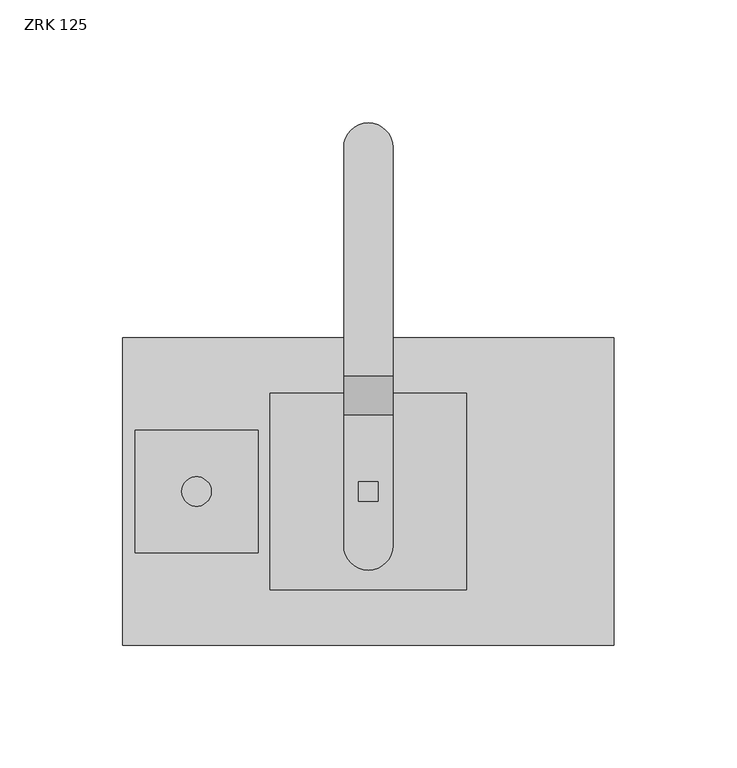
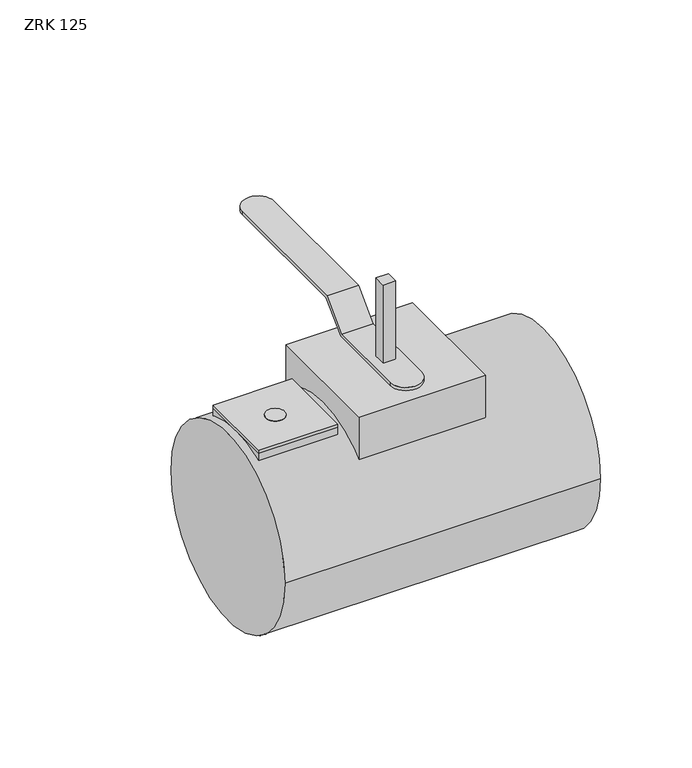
"""IFC4 building model written with IfcOpenShell, lengths in millimetres: damper geometry, KORF_Заслонка_Круглая_ZRK_Ручка : ZRK 125."""

import ifcopenshell
import ifcopenshell.guid

model = None  # the IFC model being written
_history = None  # IfcOwnerHistory: only IFC2X3 demands one
_inside = {}  # id of a spatial element -> (the spatial element, [elements in it])
_under = {}  # id of a project, library or spatial element -> (it, [spatial elements below it])
_declared = {}  # id of a project -> (the project, [libraries it declares])
_typed = {}  # id of a type object -> (the type object, [elements of that type])
_made_of = {}  # id of a material, layer set ... -> (it, [elements and type objects made of it])


def new_model(schema):
    """Start an empty IFC model of exactly this schema.

    Asked for "IFC4X3", IfcOpenShell would pick the latest addendum, in which some entities
    have other attributes; the version numbers below select the first issue.
    IFC2X3 requires an IfcOwnerHistory on every rooted entity: one is made here for all.
    """
    global model, _history
    if schema == "IFC4X3":
        model = ifcopenshell.file(schema_version=(4, 3, 0, 0))
    else:
        model = ifcopenshell.file(schema=schema)
    _inside.clear()
    _under.clear()
    _declared.clear()
    _typed.clear()
    _made_of.clear()
    _history = None
    if model.schema == "IFC2X3":
        org = make("IfcOrganization", Name="unknown")
        user = make(
            "IfcPersonAndOrganization",
            ThePerson=make("IfcPerson", FamilyName="unknown"),
            TheOrganization=org,
        )
        app = make(
            "IfcApplication",
            ApplicationDeveloper=org,
            Version="unknown",
            ApplicationFullName="unknown",
            ApplicationIdentifier="unknown",
        )
        _history = make(
            "IfcOwnerHistory",
            OwningUser=user,
            OwningApplication=app,
            ChangeAction="ADDED",
            CreationDate=0,
        )
    return model


def make(cls, **values):
    """One entity of the class cls with the attributes given. An attribute that is None is left unset."""
    return model.create_entity(
        cls, **{name: value for name, value in values.items() if value is not None}
    )


def rooted(cls, **values):
    """An entity with a GlobalId (a new one), such as an element, a storey or a relation."""
    return make(cls, GlobalId=ifcopenshell.guid.new(), OwnerHistory=_history, **values)


def si_unit(unit_type, name, prefix=None):
    """IfcSIUnit, for example si_unit("LENGTHUNIT", "METRE", prefix="MILLI")."""
    return make("IfcSIUnit", UnitType=unit_type, Prefix=prefix, Name=name)


def assignment(units):
    """IfcUnitAssignment: the units of a project."""
    return None if units is None else make("IfcUnitAssignment", Units=units)


def point(xyz):
    """IfcCartesianPoint."""
    return None if xyz is None else make("IfcCartesianPoint", Coordinates=xyz)


def direction(xyz):
    """IfcDirection."""
    return None if xyz is None else make("IfcDirection", DirectionRatios=xyz)


def frame(location, z_axis=None, x_axis=None):
    """IfcAxis2Placement3D, a coordinate frame: its origin and axes. An axis left out is left unset."""
    return make(
        "IfcAxis2Placement3D",
        Location=point(location),
        Axis=direction(z_axis),
        RefDirection=direction(x_axis),
    )


def frame_2d(location, x_axis=None):
    """IfcAxis2Placement2D, a coordinate frame in the plane: its origin and x axis."""
    return make(
        "IfcAxis2Placement2D", Location=point(location), RefDirection=direction(x_axis)
    )


def origin():
    """The frame at (0, 0, 0) with its axes left unset."""
    return frame((0.0, 0.0, 0.0))


def origin_2d():
    """The frame at (0, 0) in the plane with its x axis left unset."""
    return frame_2d((0.0, 0.0))


def place(relative_to, where):
    """IfcLocalPlacement: puts the frame where relative to a parent placement (None: the world)."""
    return make(
        "IfcLocalPlacement", PlacementRelTo=relative_to, RelativePlacement=where
    )


def context(
    kind, dimensions, precision=None, world=None, true_north=None, identifier=None
):
    """IfcGeometricRepresentationContext, for example the 3D "Model" context."""
    return make(
        "IfcGeometricRepresentationContext",
        ContextIdentifier=identifier,
        ContextType=kind,
        CoordinateSpaceDimension=dimensions,
        Precision=precision,
        WorldCoordinateSystem=world,
        TrueNorth=true_north,
    )


def project(units=None, contexts=None):
    """IfcProject with its units and contexts."""
    return rooted(
        "IfcProject",
        Name="project",
        RepresentationContexts=contexts,
        UnitsInContext=assignment(units),
    )


def spatial(cls, under=None, at=None, **own):
    """A site, building, storey or space (cls), placed at a placement, below another one or the project."""
    s = rooted(cls, ObjectPlacement=at, **own)
    if under is not None:
        _under.setdefault(under.id(), (under, []))[1].append(s)
    return s


def polyline(points):
    """IfcPolyline through the points."""
    return make("IfcPolyline", Points=[point(p) for p in points])


def circle_curve(where, radius):
    """IfcCircle in the frame where."""
    return make("IfcCircle", Position=where, Radius=radius)


def trimmed(basis, trim1, trim2, sense, master):
    """IfcTrimmedCurve: the piece of a basis curve between two trims."""
    return make(
        "IfcTrimmedCurve",
        BasisCurve=basis,
        Trim1=trim1,
        Trim2=trim2,
        SenseAgreement=sense,
        MasterRepresentation=master,
    )


def segment(curve, same_sense, transition):
    """IfcCompositeCurveSegment."""
    return make(
        "IfcCompositeCurveSegment",
        Transition=transition,
        SameSense=same_sense,
        ParentCurve=curve,
    )


def composite_curve(segments, self_intersect=None):
    """IfcCompositeCurve: segments joined end to end."""
    return make("IfcCompositeCurve", Segments=segments, SelfIntersect=self_intersect)


def outline(outer, holes=None, kind="AREA"):
    """IfcArbitraryClosedProfileDef: a profile drawn as a closed curve; with holes, ...WithVoids."""
    if holes is None:
        return make("IfcArbitraryClosedProfileDef", ProfileType=kind, OuterCurve=outer)
    return make(
        "IfcArbitraryProfileDefWithVoids",
        ProfileType=kind,
        OuterCurve=outer,
        InnerCurves=holes,
    )


def extrude(swept, where, along, depth):
    """IfcExtrudedAreaSolid: the profile swept, set in the frame where, extruded along a direction by depth."""
    return make(
        "IfcExtrudedAreaSolid",
        SweptArea=swept,
        Position=where,
        ExtrudedDirection=direction(along),
        Depth=depth,
    )


def shape(context_of_items, identifier, shape_type, items):
    """IfcShapeRepresentation: the items that make up one representation, for example the "Body"."""
    return make(
        "IfcShapeRepresentation",
        ContextOfItems=context_of_items,
        RepresentationIdentifier=identifier,
        RepresentationType=shape_type,
        Items=items,
    )


def source(mapping_origin, context_of_items, identifier, shape_type, items):
    """IfcRepresentationMap: a shape defined once, which mapped items show again and again."""
    return make(
        "IfcRepresentationMap",
        MappingOrigin=mapping_origin,
        MappedRepresentation=shape(context_of_items, identifier, shape_type, items),
    )


def transform(
    local_origin,
    x_axis=None,
    y_axis=None,
    z_axis=None,
    scale=None,
    scale2=None,
    scale3=None,
    uniform=True,
):
    """IfcCartesianTransformationOperator3D, or its non-uniform kind. x_axis, y_axis, z_axis: its Axis1, 2, 3."""
    if uniform:
        return make(
            "IfcCartesianTransformationOperator3D",
            Axis1=direction(x_axis),
            Axis2=direction(y_axis),
            LocalOrigin=point(local_origin),
            Scale=scale,
            Axis3=direction(z_axis),
        )
    return make(
        "IfcCartesianTransformationOperator3DnonUniform",
        Axis1=direction(x_axis),
        Axis2=direction(y_axis),
        LocalOrigin=point(local_origin),
        Scale=scale,
        Axis3=direction(z_axis),
        Scale2=scale2,
        Scale3=scale3,
    )


def mapped(mapping_source, mapping_target):
    """IfcMappedItem: shows the shape of a source again, moved by a transform."""
    return make(
        "IfcMappedItem", MappingSource=mapping_source, MappingTarget=mapping_target
    )


def made_of(thing, what):
    """Note that an element or type object is made of a material, layer set ...; save() writes the relation."""
    if what is not None:
        _made_of.setdefault(what.id(), (what, []))[1].append(thing)
    return thing


def element(
    cls,
    number,
    at=None,
    inside=None,
    cuts=None,
    type_object=None,
    material=None,
    context=None,
    identifier="Body",
    shape_type=None,
    held_by="IfcProductDefinitionShape",
    body=None,
    shapes=None,
    **own,
):
    """One element of the class cls, such as IfcWall. Its Tag is "e" and its number.

    at: its placement. inside: the storey or other place that contains it. cuts: it is an
    opening in that element (IfcRelVoidsElement). A single representation is given by context,
    identifier, shape_type and body (its items); several are given by shapes. held_by: the class
    of the entity that holds the representations. save() writes the other relations.
    """
    e = rooted(cls, Tag="e%d" % number, ObjectPlacement=at, **own)
    if body is not None:
        shapes = [shape(context, identifier, shape_type, body)]
    if shapes is not None:
        e.Representation = make(held_by, Representations=shapes)
    if inside is not None:
        _inside.setdefault(inside.id(), (inside, []))[1].append(e)
    if cuts is not None:
        rooted(
            "IfcRelVoidsElement", RelatingBuildingElement=cuts, RelatedOpeningElement=e
        )
    if type_object is not None:
        _typed.setdefault(type_object.id(), (type_object, []))[1].append(e)
    return made_of(e, material)


def aggregate(whole, parts):
    """IfcRelAggregates: a whole, such as a stair, and the parts it consists of."""
    return rooted("IfcRelAggregates", RelatingObject=whole, RelatedObjects=parts)


def save(model, path):
    """Write the relations noted so far, then the file.

    IfcRelAggregates (storeys below a building ...), IfcRelContainedInSpatialStructure (elements
    in a storey), IfcRelDefinesByType, IfcRelAssociatesMaterial and IfcRelDeclares: one each for
    every whole, place, type object, material and project.
    """
    for whole, parts in _under.values():
        aggregate(whole, parts)
    for where, things in _inside.values():
        rooted(
            "IfcRelContainedInSpatialStructure",
            RelatedElements=things,
            RelatingStructure=where,
        )
    for kind, things in _typed.values():
        rooted("IfcRelDefinesByType", RelatedObjects=things, RelatingType=kind)
    for what, things in _made_of.values():
        rooted("IfcRelAssociatesMaterial", RelatedObjects=things, RelatingMaterial=what)
    for by, libraries in _declared.values():
        rooted("IfcRelDeclares", RelatingContext=by, RelatedDefinitions=libraries)
    model.write(path)


def plane_surface(at):
    """IfcPlane: the flat surface through the origin of the frame at, square to its z axis."""
    return make("IfcPlane", Position=at)


def cylinder_surface(at, radius):
    """IfcCylindricalSurface: all points at the distance radius from the z axis of the frame at."""
    return make("IfcCylindricalSurface", Position=at, Radius=radius)


def revolved_surface(curve, axis_point, axis_direction):
    """IfcSurfaceOfRevolution: the curve turned about the line through axis_point along axis_direction."""
    return make(
        "IfcSurfaceOfRevolution",
        SweptCurve=make("IfcArbitraryOpenProfileDef", ProfileType="CURVE", Curve=curve),
        AxisPosition=make("IfcAxis1Placement", Location=point(axis_point), Axis=direction(axis_direction)),
    )


def advanced_brep(points, edges, surfaces, faces):
    """IfcAdvancedBrep: a solid bounded by faces that lie on surfaces and meet in shared edges.

    An edge is (start, end): straight between two places in points (the first is 0);
    or (start, end, curve); or (start, end, curve, False) where it runs against its curve.
    A face is (place in surfaces, loops), or (place, loops, False) where it looks against
    its surface's normal. A loop lists edges by number (the first is 1), with a minus sign
    where the edge is run from its end to its start. The first loop is the outer one.
    """
    corners = [point(p) for p in points]
    vertices = [make("IfcVertexPoint", VertexGeometry=c) for c in corners]
    made = []
    for start, end, *more in edges:
        made.append(
            make(
                "IfcEdgeCurve",
                EdgeStart=vertices[start],
                EdgeEnd=vertices[end],
                EdgeGeometry=more[0] if more else make("IfcPolyline", Points=[corners[start], corners[end]]),
                SameSense=more[1] if len(more) > 1 else True,
            )
        )
    hull = []
    for where, loops, *sense in faces:
        bounds = []
        for j, loop in enumerate(loops):
            ring = [make("IfcOrientedEdge", EdgeElement=made[abs(k) - 1], Orientation=k > 0) for k in loop]
            bounds.append(
                make(
                    "IfcFaceOuterBound" if j == 0 else "IfcFaceBound",
                    Bound=make("IfcEdgeLoop", EdgeList=ring),
                    Orientation=True,
                )
            )
        hull.append(make("IfcAdvancedFace", Bounds=bounds, FaceSurface=surfaces[where], SameSense=sense[0] if sense else True))
    return make("IfcAdvancedBrep", Outer=make("IfcClosedShell", CfsFaces=hull))


def zrk_125_a92ab89a(model_context):
    return source(origin(), model_context, "Body", "SolidModel", [
        extrude(outline(composite_curve([segment(trimmed(circle_curve(frame_2d((30.0, 0.0)), 6.0), [point((36.0, 0.0))], [point((24.0, 0.0))], False, "CARTESIAN"), True, "CONTINUOUS"), segment(trimmed(circle_curve(frame_2d((30.0, 0.0)), 6.0), [point((24.0, 0.0))], [point((36.0, 0.0))], False, "CARTESIAN"), True, "CONTINUOUS")], self_intersect=False)), frame((0.0, 0.0, 62.5), z_axis=(0.0, 0.0, 1.0), x_axis=(1.0, 0.0, 0.0)), (0.0, 0.0, 1.0), 2.0),
        extrude(outline(polyline([(55.0, 25.0), (55.0, -25.0), (5.0, -25.0), (5.0, 25.0), (55.0, 25.0)]), holes=[composite_curve([segment(trimmed(circle_curve(frame_2d((30.0, 0.0)), 6.0), [point((24.0, 0.0))], [point((36.0, 0.0))], True, "CARTESIAN"), True, "CONTINUOUS"), segment(trimmed(circle_curve(frame_2d((30.0, 0.0)), 6.0), [point((36.0, 0.0))], [point((24.0, 0.0))], True, "CARTESIAN"), True, "CONTINUOUS")], self_intersect=False)]), frame((0.0, 0.0, 62.5), z_axis=(0.0, 0.0, 1.0), x_axis=(1.0, 0.0, 0.0)), (0.0, 0.0, 1.0), 2.0),
        extrude(outline(composite_curve([segment(trimmed(circle_curve(origin_2d(), 62.5), [point((-62.5, 0.0))], [point((62.5, 0.0))], False, "CARTESIAN"), True, "CONTINUOUS"), segment(trimmed(circle_curve(origin_2d(), 62.5), [point((62.5, 0.0))], [point((-62.5, 0.0))], False, "CARTESIAN"), True, "CONTINUOUS")], self_intersect=False)), frame((0.0, 0.0, 0.0), z_axis=(1.0, 0.0, 0.0), x_axis=(0.0, 1.0, 0.0)), (0.0, 0.0, 1.0), 200.0),
        advanced_brep(
        [(55.0, 25.0, 62.5), (5.0, 25.0, 62.5), (5.0, 0.0, 62.5), (5.0, -25.0, 62.5), (55.0, -25.0, 62.5), (55.0, 0.0, 62.5), (55.0, 25.0, 57.2821962), (5.0, 25.0, 57.2821962), (5.0, -25.0, 57.2821962), (55.0, -25.0, 57.2821962)],
        [
            (0, 1),
            (1, 2),
            (2, 3),
            (3, 4),
            (4, 5),
            (5, 0),
            (0, 6),
            (6, 7),
            (7, 1),
            (7, 2, circle_curve(frame((5.0, 0.0, 0.0), z_axis=(1.0, 0.0, 0.0), x_axis=(0.0, 0.0, -1.0)), 62.5)),
            (2, 8, circle_curve(frame((5.0, 0.0, 0.0), z_axis=(1.0, 0.0, 0.0), x_axis=(0.0, 0.0, -1.0)), 62.5)),
            (8, 3),
            (8, 9),
            (9, 4),
            (9, 5, circle_curve(frame((55.0, 0.0, 0.0), z_axis=(-1.0, 0.0, 0.0), x_axis=(0.0, 0.0, -1.0)), 62.5)),
            (5, 6, circle_curve(frame((55.0, 0.0, 0.0), z_axis=(-1.0, 0.0, 0.0), x_axis=(0.0, 0.0, -1.0)), 62.5)),
        ],
        [
            plane_surface(frame((5.0, 25.0, 62.5), z_axis=(0.0, 0.0, 1.0), x_axis=(-1.0, 0.0, 0.0))),
            plane_surface(frame((55.0, 25.0, 62.5), z_axis=(0.0, 1.0, 0.0), x_axis=(0.0, 0.0, -1.0))),
            plane_surface(frame((5.0, 25.0, 62.5), z_axis=(-1.0, 0.0, 0.0), x_axis=(0.0, 0.0, -1.0))),
            plane_surface(frame((5.0, -25.0, 62.5), z_axis=(0.0, -1.0, 0.0), x_axis=(0.0, 0.0, -1.0))),
            plane_surface(frame((55.0, -25.0, 62.5), z_axis=(1.0, 0.0, 0.0), x_axis=(0.0, 0.0, -1.0))),
            revolved_surface(polyline([(5.0, 0.0, -62.5), (55.0, 0.0, -62.5)]), (200.0, 0.0, 0.0), (-1.0, 0.0, 0.0)),
        ],
        [
            (0, [[1, 2, 3, 4, 5, 6]]),
            (1, [[-1, 7, 8, 9]]),
            (2, [[-2, -9, 10]]),
            (2, [[-3, 11, 12]]),
            (3, [[-4, -12, 13, 14]]),
            (4, [[-5, -14, 15]]),
            (4, [[-6, 16, -7]]),
            (5, [[-8, -16, -15, -13, -11, -10]]),
        ],
    ),
        extrude(outline(composite_curve([segment(polyline([(-4.0, 130.5), (4.0, 130.5), (4.0, 62.3718687)]), True, "CONTINUOUS"), segment(trimmed(circle_curve(origin_2d(), 62.5), [point((4.0, 62.3718687))], [point((-4.0, 62.3718687))], True, "CARTESIAN"), True, "CONTINUOUS"), segment(polyline([(-4.0, 62.3718687), (-4.0, 130.5)]), True, "CONTINUOUS")], self_intersect=False)), frame((96.0, 0.0, 0.0), z_axis=(1.0, 0.0, 0.0), x_axis=(0.0, 1.0, 0.0)), (0.0, 0.0, 1.0), 8.0),
        advanced_brep(
        [(90.0, 48.0, 92.5), (90.0, 32.0, 76.5), (90.0, -22.0, 76.5), (90.0, -22.0, 78.5), (90.0, 31.1715729, 78.5), (90.0, 47.1715729, 94.5), (90.0, 140.0, 94.5), (90.0, 140.0, 92.5), (110.0, 47.1715729, 94.5), (110.0, 31.1715729, 78.5), (110.0, -22.0, 78.5), (110.0, -22.0, 76.5), (110.0, 32.0, 76.5), (110.0, 48.0, 92.5), (110.0, 140.0, 92.5), (110.0, 140.0, 94.5), (100.0, 150.0, 92.5), (100.0, 150.0, 94.5), (100.0, -32.0, 78.5), (96.0, 4.0, 78.5), (104.0, 4.0, 78.5), (104.0, -4.0, 78.5), (96.0, -4.0, 78.5), (100.0, -32.0, 76.5), (104.0, 4.0, 76.5), (96.0, 4.0, 76.5), (96.0, -4.0, 76.5), (104.0, -4.0, 76.5)],
        [
            (0, 1),
            (1, 2),
            (2, 3),
            (3, 4),
            (4, 5),
            (5, 6),
            (6, 7),
            (7, 0),
            (8, 9),
            (9, 10),
            (10, 11),
            (11, 12),
            (12, 13),
            (13, 14),
            (14, 15),
            (15, 8),
            (13, 0),
            (7, 16, circle_curve(frame((100.0, 140.0, 92.5), z_axis=(0.0, 0.0, -1.0), x_axis=(1.0, 0.0, 0.0)), 10.0)),
            (16, 14, circle_curve(frame((100.0, 140.0, 92.5), z_axis=(0.0, 0.0, -1.0), x_axis=(1.0, 0.0, 0.0)), 10.0)),
            (5, 8),
            (15, 17, circle_curve(frame((100.0, 140.0, 94.5), z_axis=(0.0, 0.0, 1.0), x_axis=(1.0, 0.0, 0.0)), 10.0)),
            (17, 6, circle_curve(frame((100.0, 140.0, 94.5), z_axis=(0.0, 0.0, 1.0), x_axis=(1.0, 0.0, 0.0)), 10.0)),
            (4, 9),
            (3, 18, circle_curve(frame((100.0, -22.0, 78.5), z_axis=(0.0, 0.0, 1.0), x_axis=(1.0, 0.0, 0.0)), 10.0)),
            (18, 10, circle_curve(frame((100.0, -22.0, 78.5), z_axis=(0.0, 0.0, 1.0), x_axis=(1.0, 0.0, 0.0)), 10.0)),
            (19, 20),
            (20, 21),
            (21, 22),
            (22, 19),
            (1, 12),
            (11, 23, circle_curve(frame((100.0, -22.0, 76.5), z_axis=(0.0, 0.0, -1.0), x_axis=(1.0, 0.0, 0.0)), 10.0)),
            (23, 2, circle_curve(frame((100.0, -22.0, 76.5), z_axis=(0.0, 0.0, -1.0), x_axis=(1.0, 0.0, 0.0)), 10.0)),
            (24, 25),
            (25, 26),
            (26, 27),
            (27, 24),
            (24, 20),
            (19, 25),
            (22, 26),
            (21, 27),
        ],
        [
            plane_surface(frame((90.0, 150.0, 92.5), z_axis=(-1.0, 0.0, 0.0), x_axis=(0.0, -1.0, 0.0))),
            plane_surface(frame((110.0, 150.0, 92.5), z_axis=(1.0, 0.0, 0.0), x_axis=(0.0, 1.0, 0.0))),
            plane_surface(frame((110.0, 48.0, 92.5), z_axis=(0.0, 0.0, -1.0), x_axis=(-1.0, 0.0, 0.0))),
            plane_surface(frame((110.0, 150.0, 94.5), z_axis=(0.0, 0.0, 1.0), x_axis=(-1.0, 0.0, 0.0))),
            plane_surface(frame((110.0, 47.1715729, 94.5), z_axis=(0.0, -0.7071067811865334, 0.7071067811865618), x_axis=(-1.0, 0.0, 0.0))),
            plane_surface(frame((110.0, 31.1715729, 78.5), z_axis=(0.0, 0.0, 1.0), x_axis=(-1.0, 0.0, 0.0))),
            plane_surface(frame((110.0, -32.0, 76.5), z_axis=(0.0, 0.0, -1.0), x_axis=(-1.0, 0.0, 0.0))),
            plane_surface(frame((110.0, 32.0, 76.5), z_axis=(0.0, 0.7071067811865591, -0.707106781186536), x_axis=(-1.0, 0.0, 0.0))),
            plane_surface(frame((104.0, 4.0, 92.5), z_axis=(0.0, -1.0, 0.0), x_axis=(0.0, 0.0, -1.0))),
            plane_surface(frame((96.0, 4.0, 92.5), z_axis=(1.0, 0.0, 0.0), x_axis=(0.0, 0.0, -1.0))),
            plane_surface(frame((96.0, -4.0, 92.5), z_axis=(0.0, 1.0, 0.0), x_axis=(0.0, 0.0, -1.0))),
            plane_surface(frame((104.0, -4.0, 92.5), z_axis=(-1.0, 0.0, 0.0), x_axis=(0.0, 0.0, -1.0))),
            cylinder_surface(frame((100.0, 140.0, 76.5), z_axis=(0.0, 0.0, -1.0), x_axis=(1.0, 0.0, 0.0)), 10.0),
            cylinder_surface(frame((100.0, -22.0, 0.0), z_axis=(0.0, 0.0, -1.0), x_axis=(1.0, 0.0, 0.0)), 10.0),
        ],
        [
            (0, [[1, 2, 3, 4, 5, 6, 7, 8]]),
            (1, [[9, 10, 11, 12, 13, 14, 15, 16]]),
            (2, [[17, -8, 18, 19, -14]]),
            (3, [[20, -16, 21, 22, -6]]),
            (4, [[-5, 23, -9, -20]]),
            (5, [[-23, -4, 24, 25, -10], [26, 27, 28, 29]]),
            (6, [[30, -12, 31, 32, -2], [33, 34, 35, 36]]),
            (7, [[-1, -17, -13, -30]]),
            (8, [[37, -26, 38, -33]]),
            (9, [[-38, -29, 39, -34]]),
            (10, [[-39, -28, 40, -35]]),
            (11, [[-37, -36, -40, -27]]),
            (12, [[-7, -22, -21, -15, -19, -18]]),
            (13, [[-3, -32, -31, -11, -25, -24]]),
        ],
    ),
        advanced_brep(
        [(140.0, 40.0, 76.5), (60.0, 40.0, 76.5), (60.0, -40.0, 76.5), (140.0, -40.0, 76.5), (96.0, 4.0, 76.5), (104.0, 4.0, 76.5), (104.0, -4.0, 76.5), (96.0, -4.0, 76.5), (140.0, 40.0, 48.0234318), (60.0, 40.0, 48.0234318), (60.0, -40.0, 48.0234318), (140.0, -40.0, 48.0234318), (104.0, 4.0, 62.3718687), (96.0, 4.0, 62.3718687), (96.0, -4.0, 62.3718687), (104.0, -4.0, 62.3718687)],
        [
            (0, 1),
            (1, 2),
            (2, 3),
            (3, 0),
            (4, 5),
            (5, 6),
            (6, 7),
            (7, 4),
            (0, 8),
            (8, 9),
            (9, 1),
            (9, 10, circle_curve(frame((60.0, 0.0, 0.0), z_axis=(1.0, 0.0, 0.0), x_axis=(0.0, 0.0, -1.0)), 62.5)),
            (10, 2),
            (10, 11),
            (11, 3),
            (11, 8, circle_curve(frame((140.0, 0.0, 0.0), z_axis=(-1.0, 0.0, 0.0), x_axis=(0.0, 0.0, -1.0)), 62.5)),
            (12, 13),
            (13, 14, circle_curve(frame((96.0, 0.0, 0.0), z_axis=(1.0, 0.0, 0.0), x_axis=(0.0, 0.0, -1.0)), 62.5)),
            (14, 15),
            (15, 12, circle_curve(frame((104.0, 0.0, 0.0), z_axis=(-1.0, 0.0, 0.0), x_axis=(0.0, 0.0, -1.0)), 62.5)),
            (12, 5),
            (4, 13),
            (7, 14),
            (6, 15),
        ],
        [
            plane_surface(frame((60.0, 40.0, 76.5), z_axis=(0.0, 0.0, 1.0), x_axis=(-1.0, 0.0, 0.0))),
            plane_surface(frame((140.0, 40.0, 76.5), z_axis=(0.0, 1.0, 0.0), x_axis=(0.0, 0.0, -1.0))),
            plane_surface(frame((60.0, 40.0, 76.5), z_axis=(-1.0, 0.0, 0.0), x_axis=(0.0, 0.0, -1.0))),
            plane_surface(frame((60.0, -40.0, 76.5), z_axis=(0.0, -1.0, 0.0), x_axis=(0.0, 0.0, -1.0))),
            plane_surface(frame((140.0, -40.0, 76.5), z_axis=(1.0, 0.0, 0.0), x_axis=(0.0, 0.0, -1.0))),
            revolved_surface(polyline([(60.0, 0.0, -62.5), (140.0, 0.0, -62.5)]), (200.0, 0.0, 0.0), (-1.0, 0.0, 0.0)),
            plane_surface(frame((104.0, 4.0, 92.5), z_axis=(0.0, -1.0, 0.0), x_axis=(0.0, 0.0, -1.0))),
            plane_surface(frame((96.0, 4.0, 92.5), z_axis=(1.0, 0.0, 0.0), x_axis=(0.0, 0.0, -1.0))),
            plane_surface(frame((96.0, -4.0, 92.5), z_axis=(0.0, 1.0, 0.0), x_axis=(0.0, 0.0, -1.0))),
            plane_surface(frame((104.0, -4.0, 92.5), z_axis=(-1.0, 0.0, 0.0), x_axis=(0.0, 0.0, -1.0))),
        ],
        [
            (0, [[1, 2, 3, 4], [5, 6, 7, 8]]),
            (1, [[-1, 9, 10, 11]]),
            (2, [[-2, -11, 12, 13]]),
            (3, [[-3, -13, 14, 15]]),
            (4, [[-4, -15, 16, -9]]),
            (5, [[-10, -16, -14, -12], [17, 18, 19, 20]]),
            (6, [[21, -5, 22, -17]]),
            (7, [[-22, -8, 23, -18]]),
            (8, [[-23, -7, 24, -19]]),
            (9, [[-21, -20, -24, -6]]),
        ],
    ),
    ])


if __name__ == "__main__":
    model = new_model("IFC4")
    model_context = context("Model", 3, world=origin())
    ifc_project = project(units=[si_unit("LENGTHUNIT", "METRE", prefix="MILLI")], contexts=[model_context])
    site = spatial("IfcSite", under=ifc_project)
    building = spatial("IfcBuilding", under=site)
    placement = place(None, origin())
    zrk_125_shape = zrk_125_a92ab89a(model_context)
    element("IfcDamper", 1, ObjectType="KORF_Заслонка_Круглая_ZRK_Ручка : ZRK 125", at=placement, inside=building, context=model_context, shape_type="MappedRepresentation", body=[
        mapped(zrk_125_shape, transform((0.0, 0.0, 0.0), x_axis=(1.0, 0.0, 0.0), y_axis=(0.0, 1.0, 0.0), z_axis=(0.0, 0.0, 1.0))),
    ])
    save(model, "model.ifc")
